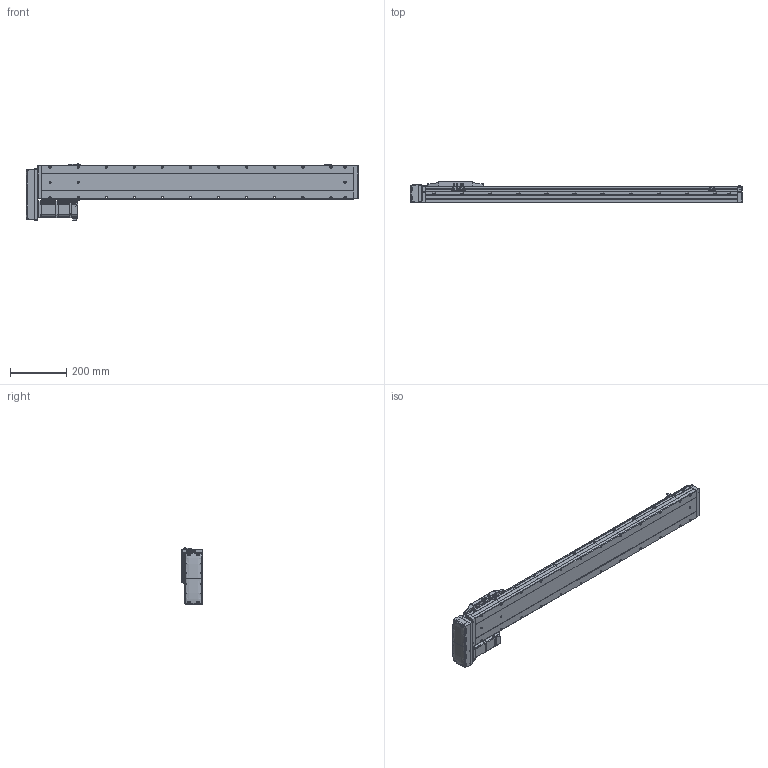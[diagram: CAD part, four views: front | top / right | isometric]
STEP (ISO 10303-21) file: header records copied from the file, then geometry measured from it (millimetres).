
FILE_DESCRIPTION (( 'STEP AP214' ), '1' );
FILE_NAME ('CTH12-L10-S900-BR-C40（简）.STEP', '2023-02-04T07:00:27', ( '' ), ( '' ), 'SwSTEP 2.0', 'SolidWorks 2018', '' );
FILE_SCHEMA (( 'AUTOMOTIVE_DESIGN' ));
Length unit declared in the file: millimetre
Products named in the file (24): CTH12覜茼え; AC60_Valor predeterminado; 嫖萇羲壽郪磁1; 内六角圆柱头螺钉M3; CTH12-BL_body_4; CTH400W垫板（3个厚）; 嫖萇羲壽郪磁2; CTH12_body_3; CTH12-L10-S900-BR-C40（简）; 蚐郲; 内六角圆柱头螺钉M3-2; M5蹟隊; CTH12; 湮賑怢  裔赽-1(CTH12)賑怢; CTH12賑怢ㄗ潠ㄘ; CTH400W假蚾啣; hex nuts, style 1-grades ab gb_GB_FASTENER_NUT_SNAB1 M3-N; CTH12賑怢郪磁; CTH12侧装连接板（标准）简; 内六角圆柱头螺钉M3-1; CTH12耜蚾裔; PM-Y45; CTH嫖萇羲壽假蚾啣; CTH12底座-L1111简（900行程）
Assembly tree (44 placements, depth 4):
  CTH12-L10-S900-BR-C40（简）
    CTH12底座-L1111简（900行程）
    蚐郲  x2
    CTH12_body_3
    CTH12-BL_body_4
    CTH12侧装连接板（标准）简
    CTH12耜蚾裔
    CTH12賑怢郪磁
      CTH12
        湮賑怢  裔赽-1(CTH12)賑怢
        CTH12賑怢ㄗ潠ㄘ
    CTH12覜茼え
    嫖萇羲壽郪磁1  x2
      CTH嫖萇羲壽假蚾啣
      PM-Y45
      内六角圆柱头螺钉M3-2
      内六角圆柱头螺钉M3-1
      hex nuts, style 1-grades ab gb_GB_FASTENER_NUT_SNAB1 M3-N
    嫖萇羲壽郪磁2
      CTH嫖萇羲壽假蚾啣
      PM-Y45
      内六角圆柱头螺钉M3-1  x2
      内六角圆柱头螺钉M3-2  x2
      hex nuts, style 1-grades ab gb_GB_FASTENER_NUT_SNAB1 M3-N  x2
    CTH400W垫板（3个厚）
    AC60_Valor predeterminado
    内六角圆柱头螺钉M3  x6
    M5蹟隊  x4
    CTH400W假蚾啣
Bounding box: 1181.5 x 76 x 201.06 mm (x, y, z)
Volume: 8133242.4 mm3; surface area: 730950.1 mm2
Topology: 47 solids, 48 shells, 2936 faces, 7487 edges, 4769 vertices
Faces by surface type: plane 1583, cylinder 816, cone 379, bspline 106, torus 52
Entity records: 86005 total; most frequent: CARTESIAN_POINT 23838, ORIENTED_EDGE 12154, DIRECTION 11832, EDGE_CURVE 6077, AXIS2_PLACEMENT_3D 4016, VERTEX_POINT 3873, VECTOR 3800, LINE 3800
